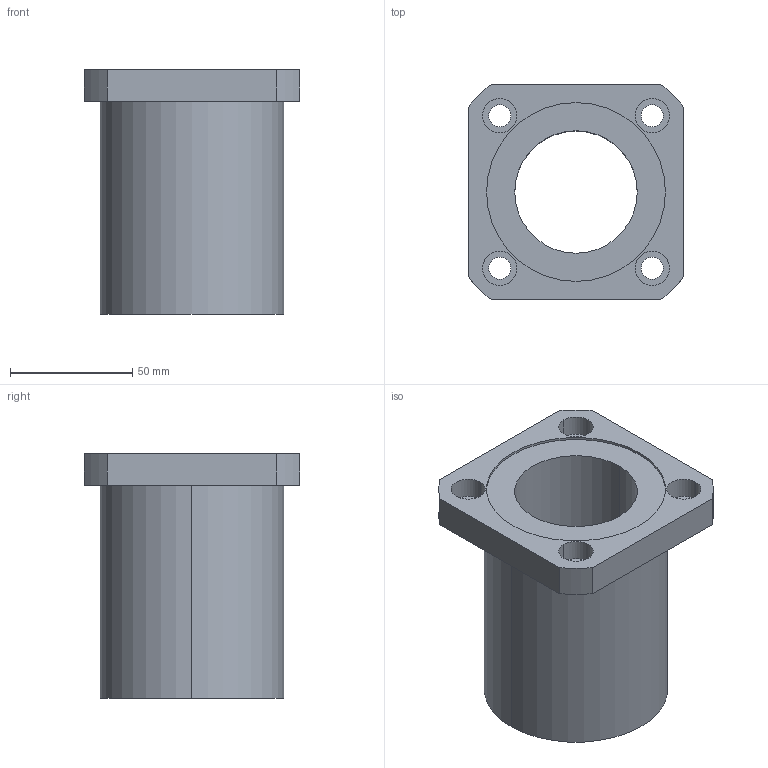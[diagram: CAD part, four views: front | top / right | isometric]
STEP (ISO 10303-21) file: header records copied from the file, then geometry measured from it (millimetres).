
FILE_DESCRIPTION((''),'2;1');
FILE_NAME('C:\Documents and Settings\ｿﾀﾀ蠑ｷ1\ｹﾙﾅﾁ ﾈｭｸ饅\ｺﾎﾇｰﾆﾄﾀﾏ\ﾁｦﾇｰ\LMEK__UU\LMEK50UU.stp','2005-06-15T10:59:47',('ｿﾀﾀ蠑ｷ1'),(''),'Autodesk Inventor 9','Autodesk Inventor 9','');
FILE_SCHEMA(('AUTOMOTIVE_DESIGN { 1 0 10303 214 1 1 1 1 }'));
Length unit declared in the file: millimetre
Products named in the file (1): LMEK__(L)
Bounding box: 88 x 88 x 100 mm (x, y, z)
Volume: 275721.2 mm3; surface area: 53383.6 mm2
Topology: 1 solids, 1 shells, 41 faces, 96 edges, 64 vertices
Faces by surface type: bspline 20, cylinder 12, plane 9
Entity records: 1457 total; most frequent: CARTESIAN_POINT 486, DIRECTION 196, ORIENTED_EDGE 192, EDGE_CURVE 96, AXIS2_PLACEMENT_3D 78, VERTEX_POINT 64, EDGE_LOOP 58, CIRCLE 56
